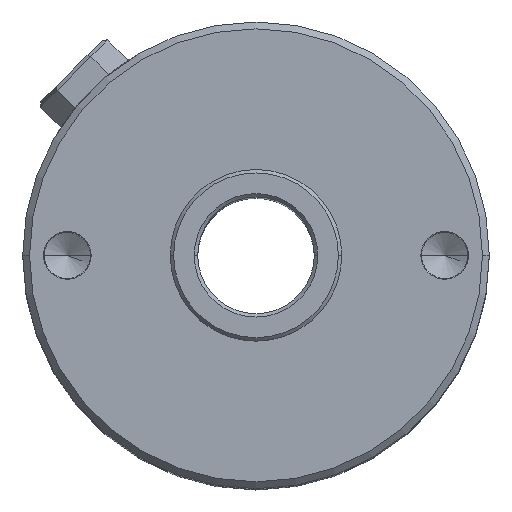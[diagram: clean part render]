
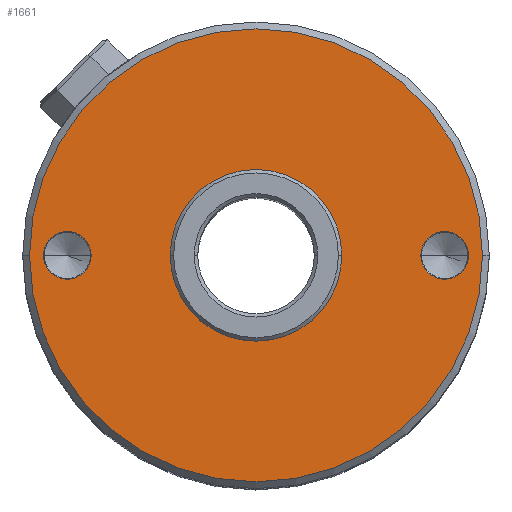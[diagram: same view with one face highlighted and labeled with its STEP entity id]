
A CAD part, top view. The second image highlights one B-rep face of the part: STEP entity #1661.
In plain terms, the highlighted planar face has unit normal (0, 0, 1).
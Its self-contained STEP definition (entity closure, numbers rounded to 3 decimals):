
#56 = CIRCLE ( 'NONE', #862, 3.475 ) ;
#97 = EDGE_CURVE ( 'NONE', #1157, #1080, #347, .T. ) ;
#123 = CIRCLE ( 'NONE', #1344, 3.475 ) ;
#284 = AXIS2_PLACEMENT_3D ( 'NONE', #671, #758, #767 ) ;
#324 = DIRECTION ( 'NONE',  ( 1., 0., 0. ) ) ;
#325 = EDGE_CURVE ( 'NONE', #1905, #590, #56, .T. ) ;
#347 = CIRCLE ( 'NONE', #392, 33. ) ;
#392 = AXIS2_PLACEMENT_3D ( 'NONE', #1687, #1692, #324 ) ;
#413 = CARTESIAN_POINT ( 'NONE',  ( 0., 0., 110. ) ) ;
#423 = DIRECTION ( 'NONE',  ( 0., 0., 1. ) ) ;
#435 = DIRECTION ( 'NONE',  ( 1., 0., 0. ) ) ;
#447 = CIRCLE ( 'NONE', #284, 12.5 ) ;
#470 = VERTEX_POINT ( 'NONE', #1546 ) ;
#490 = FACE_BOUND ( 'NONE', #1566, .T. ) ;
#492 = DIRECTION ( 'NONE',  ( 0., 0., -1. ) ) ;
#494 = FACE_BOUND ( 'NONE', #1871, .T. ) ;
#562 = FACE_BOUND ( 'NONE', #1282, .T. ) ;
#590 = VERTEX_POINT ( 'NONE', #1951 ) ;
#641 = DIRECTION ( 'NONE',  ( 1., 0., 0. ) ) ;
#671 = CARTESIAN_POINT ( 'NONE',  ( 0., 0., 110. ) ) ;
#685 = EDGE_CURVE ( 'NONE', #590, #1905, #816, .T. ) ;
#696 = CARTESIAN_POINT ( 'NONE',  ( -27.5, 0., 110. ) ) ;
#700 = AXIS2_PLACEMENT_3D ( 'NONE', #1962, #1969, #1882 ) ;
#753 = AXIS2_PLACEMENT_3D ( 'NONE', #953, #1020, #1109 ) ;
#758 = DIRECTION ( 'NONE',  ( 0., 0., 1. ) ) ;
#767 = DIRECTION ( 'NONE',  ( 1., 0., 0. ) ) ;
#815 = CIRCLE ( 'NONE', #859, 12.5 ) ;
#816 = CIRCLE ( 'NONE', #700, 3.475 ) ;
#859 = AXIS2_PLACEMENT_3D ( 'NONE', #1931, #2061, #2056 ) ;
#862 = AXIS2_PLACEMENT_3D ( 'NONE', #696, #492, #641 ) ;
#934 = CARTESIAN_POINT ( 'NONE',  ( -12.5, 0., 110. ) ) ;
#945 = PLANE ( 'NONE',  #753 ) ;
#953 = CARTESIAN_POINT ( 'NONE',  ( 0., 0., 110. ) ) ;
#997 = ORIENTED_EDGE ( 'NONE', *, *, #1325, .T. ) ;
#1020 = DIRECTION ( 'NONE',  ( 0., 0., 1. ) ) ;
#1079 = EDGE_LOOP ( 'NONE', ( #1775, #1789 ) ) ;
#1080 = VERTEX_POINT ( 'NONE', #2017 ) ;
#1109 = DIRECTION ( 'NONE',  ( 1., 0., 0. ) ) ;
#1157 = VERTEX_POINT ( 'NONE', #1693 ) ;
#1282 = EDGE_LOOP ( 'NONE', ( #1511, #1758 ) ) ;
#1321 = CARTESIAN_POINT ( 'NONE',  ( 30.975, 0., 110. ) ) ;
#1325 = EDGE_CURVE ( 'NONE', #1689, #1818, #2102, .T. ) ;
#1336 = CARTESIAN_POINT ( 'NONE',  ( 24.025, 0., 110. ) ) ;
#1344 = AXIS2_PLACEMENT_3D ( 'NONE', #2143, #2154, #2176 ) ;
#1425 = CARTESIAN_POINT ( 'NONE',  ( -24.025, 0., 110. ) ) ;
#1511 = ORIENTED_EDGE ( 'NONE', *, *, #325, .T. ) ;
#1546 = CARTESIAN_POINT ( 'NONE',  ( 12.5, 0., 110. ) ) ;
#1566 = EDGE_LOOP ( 'NONE', ( #1746, #1737 ) ) ;
#1570 = EDGE_CURVE ( 'NONE', #1080, #1157, #1668, .T. ) ;
#1600 = CARTESIAN_POINT ( 'NONE',  ( 27.5, 0., 110. ) ) ;
#1606 = DIRECTION ( 'NONE',  ( 0., 0., -1. ) ) ;
#1614 = EDGE_CURVE ( 'NONE', #470, #1857, #447, .T. ) ;
#1623 = DIRECTION ( 'NONE',  ( 1., 0., 0. ) ) ;
#1637 = ORIENTED_EDGE ( 'NONE', *, *, #1751, .T. ) ;
#1661 = ADVANCED_FACE ( 'NONE', ( #1946, #494, #562, #490 ), #945, .T. ) ;
#1668 = CIRCLE ( 'NONE', #2029, 33. ) ;
#1687 = CARTESIAN_POINT ( 'NONE',  ( 0., 0., 110. ) ) ;
#1689 = VERTEX_POINT ( 'NONE', #1321 ) ;
#1692 = DIRECTION ( 'NONE',  ( 0., 0., 1. ) ) ;
#1693 = CARTESIAN_POINT ( 'NONE',  ( -33., 0., 110. ) ) ;
#1737 = ORIENTED_EDGE ( 'NONE', *, *, #1614, .F. ) ;
#1746 = ORIENTED_EDGE ( 'NONE', *, *, #1939, .F. ) ;
#1751 = EDGE_CURVE ( 'NONE', #1818, #1689, #123, .T. ) ;
#1758 = ORIENTED_EDGE ( 'NONE', *, *, #685, .T. ) ;
#1775 = ORIENTED_EDGE ( 'NONE', *, *, #97, .T. ) ;
#1789 = ORIENTED_EDGE ( 'NONE', *, *, #1570, .T. ) ;
#1818 = VERTEX_POINT ( 'NONE', #1336 ) ;
#1857 = VERTEX_POINT ( 'NONE', #934 ) ;
#1871 = EDGE_LOOP ( 'NONE', ( #997, #1637 ) ) ;
#1878 = AXIS2_PLACEMENT_3D ( 'NONE', #1600, #1606, #1623 ) ;
#1882 = DIRECTION ( 'NONE',  ( 1., 0., 0. ) ) ;
#1905 = VERTEX_POINT ( 'NONE', #1425 ) ;
#1931 = CARTESIAN_POINT ( 'NONE',  ( 0., 0., 110. ) ) ;
#1939 = EDGE_CURVE ( 'NONE', #1857, #470, #815, .T. ) ;
#1946 = FACE_OUTER_BOUND ( 'NONE', #1079, .T. ) ;
#1951 = CARTESIAN_POINT ( 'NONE',  ( -30.975, 0., 110. ) ) ;
#1962 = CARTESIAN_POINT ( 'NONE',  ( -27.5, 0., 110. ) ) ;
#1969 = DIRECTION ( 'NONE',  ( 0., 0., -1. ) ) ;
#2017 = CARTESIAN_POINT ( 'NONE',  ( 33., 0., 110. ) ) ;
#2029 = AXIS2_PLACEMENT_3D ( 'NONE', #413, #423, #435 ) ;
#2056 = DIRECTION ( 'NONE',  ( 1., 0., 0. ) ) ;
#2061 = DIRECTION ( 'NONE',  ( 0., 0., 1. ) ) ;
#2102 = CIRCLE ( 'NONE', #1878, 3.475 ) ;
#2143 = CARTESIAN_POINT ( 'NONE',  ( 27.5, 0., 110. ) ) ;
#2154 = DIRECTION ( 'NONE',  ( 0., 0., -1. ) ) ;
#2176 = DIRECTION ( 'NONE',  ( 1., 0., 0. ) ) ;
